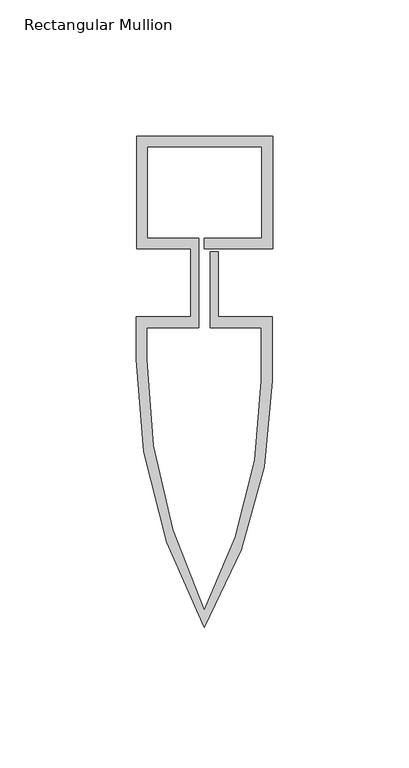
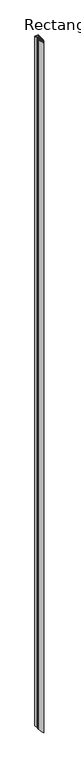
"""IFC4 building model written with IfcOpenShell, lengths in millimetres: member geometry, Rectangular Mullion : Reynaers_CW-50_Mullion-Transom_Vertical_41.5mm_Facecap-05."""

from ifc_helpers import new_model, si_unit, point, frame, frame_2d, origin, place, context, project, spatial, polyline, circle_curve, trimmed, segment, composite_curve, outline, extrude, source, transform, mapped, element, save


def rectangular_mullion_1ab9979a(model_context):
    return source(origin(), model_context, "Body", "SweptSolid", [
        extrude(outline(composite_curve([segment(polyline([(-24.8004059, 54.0), (25.1995941, 54.0), (25.1995941, 12.5), (0.0, 12.5), (0.0, 16.5), (21.1995941, 16.5), (21.1995941, 50.0), (-20.8004059, 50.0), (-20.8004059, 16.5), (-1.9004059, 16.5), (-1.9004059, -16.5), (-20.994845, -16.5), (-20.994845, -28.2355063)]), True, "CONTINUOUS"), segment(trimmed(circle_curve(frame_2d((191.2554764, -28.2355063)), 212.2503214), [point((-20.994845, -28.2355063))], [point((0.0, -120.2764846))], True, "CARTESIAN"), True, "CONTINUOUS"), segment(trimmed(circle_curve(frame_2d((-158.432152, -36.0547506)), 179.426997), [point((0.0, -120.2764846))], [point((20.994845, -36.0547506))], True, "CARTESIAN"), True, "CONTINUOUS"), segment(polyline([(20.994845, -36.0547506), (20.994845, -16.5), (2.2995941, -16.5), (2.2995941, 11.5), (5.2995941, 11.5), (5.2995941, -12.5), (24.994845, -12.5), (24.994845, -36.0195976)]), True, "CONTINUOUS"), segment(trimmed(circle_curve(frame_2d((-151.2704106, -36.0195976)), 176.2652556), [point((24.994845, -36.0195976))], [point((0.0, -126.5))], False, "CARTESIAN"), True, "CONTINUOUS"), segment(trimmed(circle_curve(frame_2d((181.1469577, -28.111878)), 206.1418028), [point((0.0, -126.5))], [point((-24.994845, -28.111878))], False, "CARTESIAN"), True, "CONTINUOUS"), segment(polyline([(-24.994845, -28.111878), (-24.994845, -12.5), (-4.9004059, -12.5), (-4.9004059, 12.5), (-24.8004059, 12.5), (-24.8004059, 54.0)]), True, "CONTINUOUS")], self_intersect=False)), frame((0.0, 0.0, -10400.0), z_axis=(0.0, 0.0, 1.0), x_axis=(1.0, 0.0, 0.0)), (0.0, 0.0, 1.0), 10400.0),
    ])


if __name__ == "__main__":
    model = new_model("IFC4")
    model_context = context("Model", 3, world=origin())
    ifc_project = project(units=[si_unit("LENGTHUNIT", "METRE", prefix="MILLI")], contexts=[model_context])
    site = spatial("IfcSite", under=ifc_project)
    building = spatial("IfcBuilding", under=site)
    placement = place(None, origin())
    rectangular_mullion_shape = rectangular_mullion_1ab9979a(model_context)
    element("IfcMember", 1, ObjectType="Rectangular Mullion : Reynaers_CW-50_Mullion-Transom_Vertical_41.5mm_Facecap-05", at=placement, inside=building, context=model_context, shape_type="MappedRepresentation", body=[
        mapped(rectangular_mullion_shape, transform((0.0, 0.0, 0.0), x_axis=(1.0, 0.0, 0.0), y_axis=(0.0, 1.0, 0.0), z_axis=(0.0, 0.0, 1.0))),
    ])
    save(model, "model.ifc")
